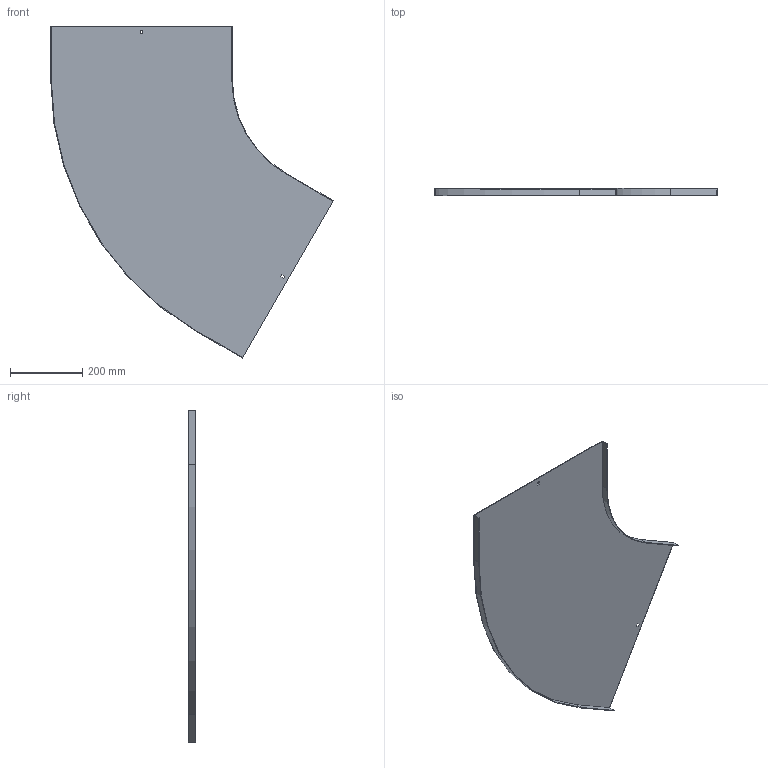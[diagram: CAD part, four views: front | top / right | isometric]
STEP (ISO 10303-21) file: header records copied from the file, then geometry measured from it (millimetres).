
FILE_DESCRIPTION (( 'STEP AP214' ), '1' );
FILE_NAME ('A2_13N3R500.step', '2025-02-21T10:52:16', ( '' ), ( '' ), 'SwSTEP 2.0', 'SolidWorks 2023', '' );
FILE_SCHEMA (( 'AUTOMOTIVE_DESIGN' ));
Length unit declared in the file: millimetre
Products named in the file (1): A2_13N3R500
Bounding box: 782.15 x 20 x 919.12 mm (x, y, z)
Volume: 709351 mm3; surface area: 950142.2 mm2
Topology: 1 solids, 1 shells, 26 faces, 72 edges, 48 vertices
Faces by surface type: plane 22, cylinder 4
Entity records: 855 total; most frequent: CARTESIAN_POINT 147, ORIENTED_EDGE 144, DIRECTION 134, EDGE_CURVE 72, LINE 64, VECTOR 64, VERTEX_POINT 48, AXIS2_PLACEMENT_3D 35
